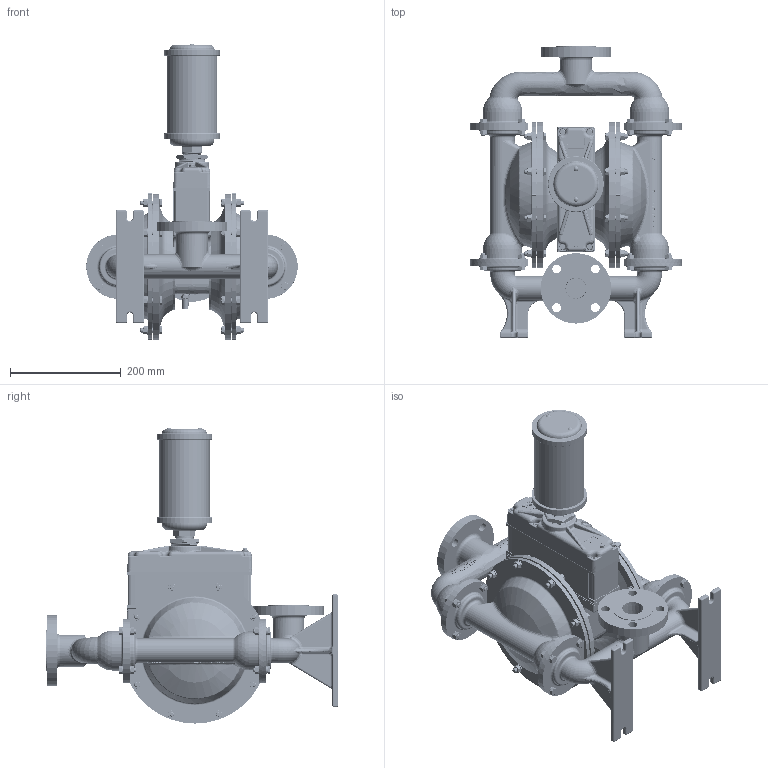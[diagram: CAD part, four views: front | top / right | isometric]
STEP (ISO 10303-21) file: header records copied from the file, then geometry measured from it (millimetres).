
FILE_DESCRIPTION (( 'STEP AP203' ), '1' );
FILE_NAME ('PS400_ADV_SS_ANSI.STEP', '2023-12-05T08:54:14', ( 'dsiit' ), ( '' ), 'SwSTEP 2.0', 'SolidWorks 2022', '' );
FILE_SCHEMA (( 'CONFIG_CONTROL_DESIGN' ));
Length unit declared in the file: inch
Products named in the file (1): PS400_ADV_SS_ANSI
Bounding box: 381.2 x 525.6 x 533.69 mm (x, y, z)
Volume: 12928494.8 mm3; surface area: 943031.4 mm2
Topology: 1 solids, 27 shells, 8851 faces, 23155 edges, 14862 vertices
Faces by surface type: plane 6044, cone 992, cylinder 935, bspline 542, torus 234, sphere 104
Entity records: 395645 total; most frequent: CARTESIAN_POINT 184982, ORIENTED_EDGE 46306, DIRECTION 39523, EDGE_CURVE 23153, LINE 15335, VECTOR 15335, VERTEX_POINT 14862, AXIS2_PLACEMENT_3D 12094
